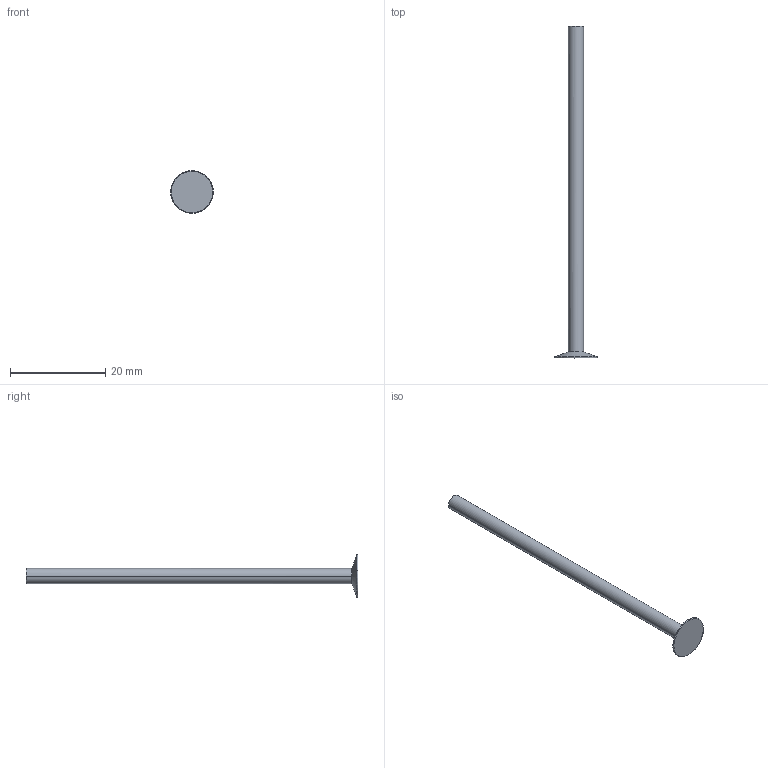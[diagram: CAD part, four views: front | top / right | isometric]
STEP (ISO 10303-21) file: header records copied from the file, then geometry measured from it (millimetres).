
FILE_DESCRIPTION (( 'STEP AP214' ), '1' );
FILE_NAME ('NORDSONEFD-7021842 9MM 354 SPINNER.STEP', '2019-07-02T15:49:04', ( '' ), ( '' ), 'SwSTEP 2.0', 'SolidWorks 2019', '' );
FILE_SCHEMA (( 'AUTOMOTIVE_DESIGN' ));
Length unit declared in the file: inch
Products named in the file (1): NORDSONEFD-7021842 9MM 354 SPINNER
Bounding box: 8.97 x 69.85 x 8.97 mm (x, y, z)
Volume: 587.9 mm3; surface area: 817.4 mm2
Topology: 1 solids, 1 shells, 8 faces, 16 edges, 10 vertices
Faces by surface type: cone 2, torus 2, cylinder 2, plane 2
Entity records: 256 total; most frequent: DIRECTION 46, CARTESIAN_POINT 35, ORIENTED_EDGE 32, AXIS2_PLACEMENT_3D 21, EDGE_CURVE 16, CIRCLE 12, VERTEX_POINT 10, EDGE_LOOP 8
